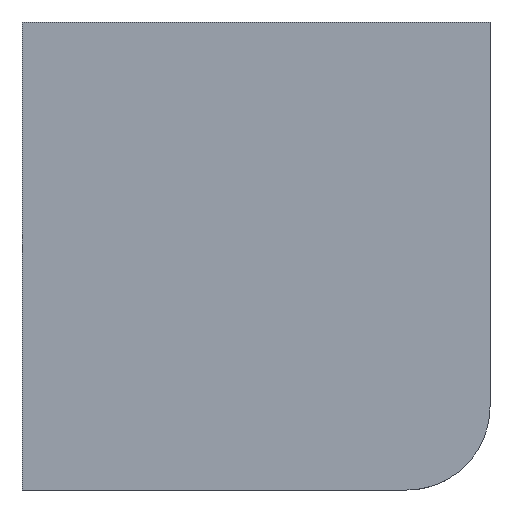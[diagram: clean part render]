
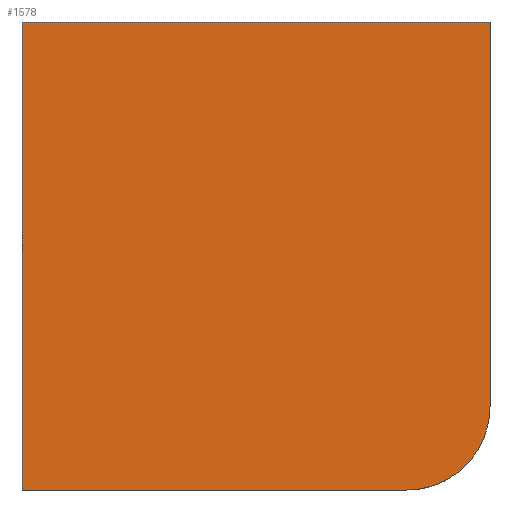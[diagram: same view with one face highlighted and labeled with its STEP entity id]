
A CAD part, left-side view. The second image highlights one B-rep face of the part: STEP entity #1578.
In plain terms, the highlighted planar face has unit normal (-1, 0, 0).
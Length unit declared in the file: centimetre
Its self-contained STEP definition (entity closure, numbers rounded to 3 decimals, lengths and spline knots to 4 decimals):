
#104 = ORIENTED_EDGE ( 'NONE', *, *, #1125, .T. ) ;
#130 = CARTESIAN_POINT ( 'NONE',  ( 0., 177.4799, 177.4799 ) ) ;
#164 = EDGE_LOOP ( 'NONE', ( #1040, #573, #1240, #702, #104 ) ) ;
#180 = DIRECTION ( 'NONE',  ( 1., 0., 0. ) ) ;
#211 = CARTESIAN_POINT ( 'NONE',  ( 0., 1000., 1000. ) ) ;
#225 = CARTESIAN_POINT ( 'NONE',  ( 0., 1000., 1000. ) ) ;
#230 = AXIS2_PLACEMENT_3D ( 'NONE', #365, #180, #1638 ) ;
#321 = CARTESIAN_POINT ( 'NONE',  ( 0., 1000., 1000. ) ) ;
#365 = CARTESIAN_POINT ( 'NONE',  ( 0., 1000., 1000. ) ) ;
#387 = DIRECTION ( 'NONE',  ( 0., -1., 0. ) ) ;
#552 = DIRECTION ( 'NONE',  ( 0., 0., -1. ) ) ;
#557 = PLANE ( 'NONE',  #230 ) ;
#573 = ORIENTED_EDGE ( 'NONE', *, *, #763, .T. ) ;
#583 = DIRECTION ( 'NONE',  ( 0., -1., 0. ) ) ;
#680 = DIRECTION ( 'NONE',  ( 0., 0., -1. ) ) ;
#702 = ORIENTED_EDGE ( 'NONE', *, *, #1507, .F. ) ;
#763 = EDGE_CURVE ( 'NONE', #1634, #2036, #990, .T. ) ;
#765 = CARTESIAN_POINT ( 'NONE',  ( 0., 0., 177.4799 ) ) ;
#924 = CARTESIAN_POINT ( 'NONE',  ( 0., 1000., 0. ) ) ;
#961 = LINE ( 'NONE', #211, #1143 ) ;
#990 = CIRCLE ( 'NONE', #1911, 177.4799 ) ;
#1040 = ORIENTED_EDGE ( 'NONE', *, *, #2013, .T. ) ;
#1125 = EDGE_CURVE ( 'NONE', #2294, #1353, #961, .T. ) ;
#1143 = VECTOR ( 'NONE', #1691, 100. ) ;
#1156 = VERTEX_POINT ( 'NONE', #1665 ) ;
#1206 = CARTESIAN_POINT ( 'NONE',  ( 0., 1000., 0. ) ) ;
#1230 = LINE ( 'NONE', #321, #2330 ) ;
#1237 = CARTESIAN_POINT ( 'NONE',  ( 0., 0., 1000. ) ) ;
#1240 = ORIENTED_EDGE ( 'NONE', *, *, #1712, .F. ) ;
#1290 = FACE_OUTER_BOUND ( 'NONE', #164, .T. ) ;
#1353 = VERTEX_POINT ( 'NONE', #1206 ) ;
#1406 = LINE ( 'NONE', #1237, #1804 ) ;
#1507 = EDGE_CURVE ( 'NONE', #2294, #1156, #1230, .T. ) ;
#1578 = ADVANCED_FACE ( 'NONE', ( #1290 ), #557, .F. ) ;
#1634 = VERTEX_POINT ( 'NONE', #1965 ) ;
#1638 = DIRECTION ( 'NONE',  ( 0., 0., -1. ) ) ;
#1665 = CARTESIAN_POINT ( 'NONE',  ( 0., 0., 1000. ) ) ;
#1682 = VECTOR ( 'NONE', #583, 100. ) ;
#1691 = DIRECTION ( 'NONE',  ( 0., 0., -1. ) ) ;
#1712 = EDGE_CURVE ( 'NONE', #1156, #2036, #1406, .T. ) ;
#1804 = VECTOR ( 'NONE', #552, 100. ) ;
#1911 = AXIS2_PLACEMENT_3D ( 'NONE', #130, #2315, #680 ) ;
#1965 = CARTESIAN_POINT ( 'NONE',  ( 0., 177.4799, 0. ) ) ;
#2002 = LINE ( 'NONE', #924, #1682 ) ;
#2013 = EDGE_CURVE ( 'NONE', #1353, #1634, #2002, .T. ) ;
#2036 = VERTEX_POINT ( 'NONE', #765 ) ;
#2294 = VERTEX_POINT ( 'NONE', #225 ) ;
#2315 = DIRECTION ( 'NONE',  ( -1., 0., 0. ) ) ;
#2330 = VECTOR ( 'NONE', #387, 100. ) ;
